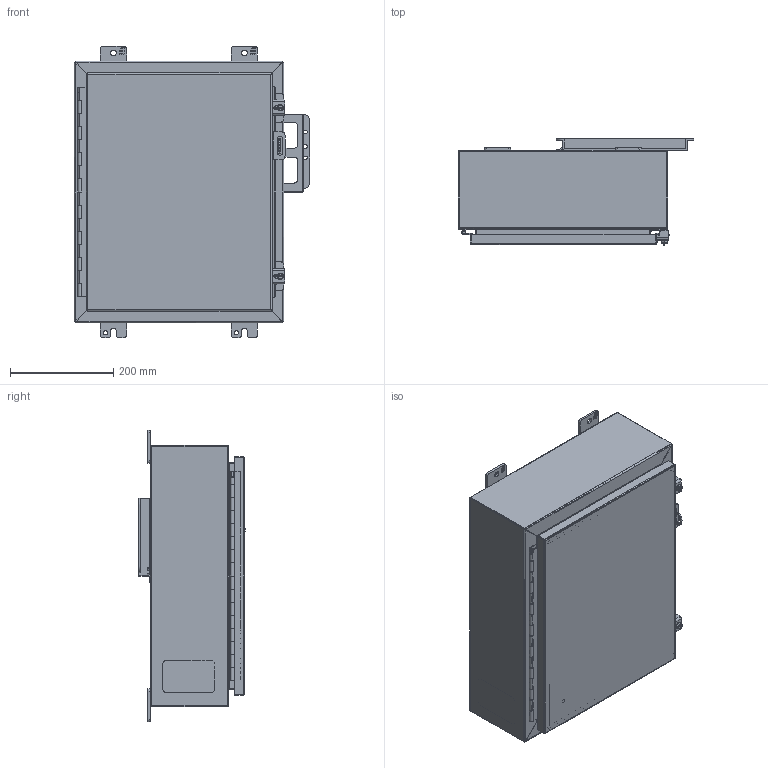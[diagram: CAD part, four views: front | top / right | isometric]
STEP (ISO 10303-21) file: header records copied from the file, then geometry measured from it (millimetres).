
FILE_DESCRIPTION(/* description */ ('Unknown'),/* implementation_level */ '2;1');
FILE_NAME(/* name */ '1418C6LP',/* time_stamp */ '2026-02-20T16:28:56-05:00',/* author */ ('Unknown'),/* organization */ ('Unknown'),/* preprocessor_version */ 'ST-DEVELOPER v18.104',/* originating_system */ 'Solid Edge',/* authorisation */ 'Unknown');
FILE_SCHEMA (('AUTOMOTIVE_DESIGN {1 0 10303 214 3 1 1}'));
Length unit declared in the file: millimetre
Products named in the file (30): 1418C6LP; FET07710; STD26094; STD21878; COM42780; COM40153-1; COM71780-6; COM40153-2; HNG10620-16C; COM70219_oa_0; PNT11078; COM48425; AKT90223; SPR20265; SCC19011; WAF25035; COM42667; KIT90518; WAF25059; NTS166105; LAB30005; BUL10020; QLB30109; KIT90256; NTS165305; NTS16535; PKT99; HNG10620-16P; HNG10620-16B
Assembly tree (40 placements, depth 3):
  1418C6LP
    FET07710  x4
    STD26094  x4
    STD21878
    COM42780  x2
    COM40153-1
    COM71780-6
      COM40153-2
      HNG10620-16C
      COM71780-6
      STD21878
      COM70219_oa_0
      PNT11078
    COM48425
    AKT90223  x2
      SPR20265
      SCC19011
      WAF25035
      COM42667
    KIT90518
      WAF25059
      NTS166105
      LAB30005
    BUL10020
    QLB30109
    KIT90256
      LAB30005
      NTS165305
      NTS16535
    PKT99
    HNG10620-16P
    HNG10620-16B
    PNT11078
Bounding box: 457.2 x 206.38 x 565.15 mm (x, y, z)
Volume: 1757650.5 mm3; surface area: 1861002.3 mm2
Topology: 34 solids, 35 shells, 1157 faces, 2931 edges, 1878 vertices
Faces by surface type: plane 770, cylinder 290, bspline 49, cone 26, torus 20, sphere 2
Full cylindrical faces by diameter (mm): 3.175 x1, 4.763 x1, 4.976 x1, 5.41 x2, 6.198 x2, 6.35 x3, 6.731 x2, 7.137 x2, 7.805 x1, 7.938 x4, 8.382 x4, 9.525 x4, 9.906 x2, 11.113 x4, 11.303 x1, 12.7 x2, 16.51 x4, 25.4 x1, 88.9 x1
Entity records: 28725 total; most frequent: CARTESIAN_POINT 8065, ORIENTED_EDGE 4112, DIRECTION 3887, EDGE_CURVE 2056, LINE 1393, VECTOR 1393, VERTEX_POINT 1321, AXIS2_PLACEMENT_3D 1247
